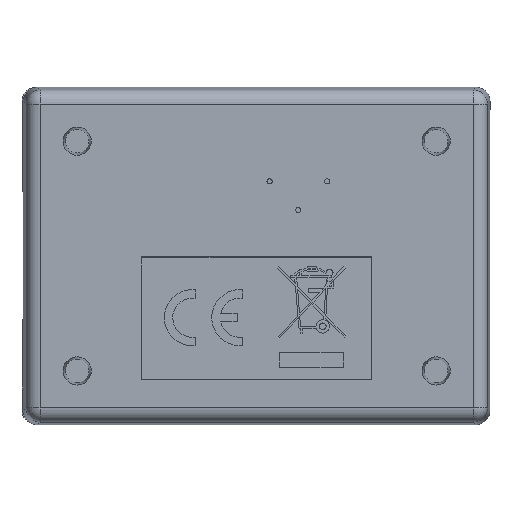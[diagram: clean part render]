
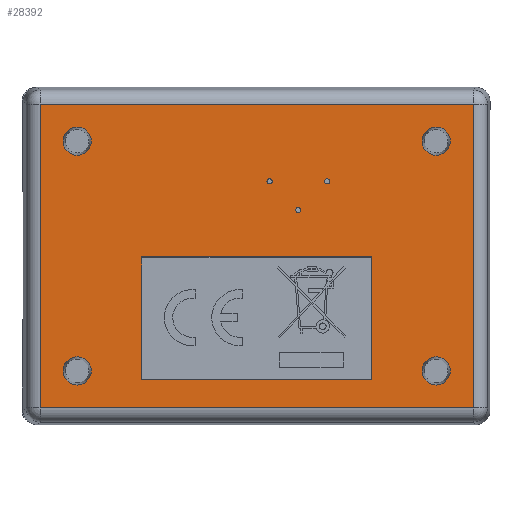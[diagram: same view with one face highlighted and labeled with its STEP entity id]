
A CAD part, front view. The second image highlights one B-rep face of the part: STEP entity #28392.
In plain terms, the highlighted planar face has unit normal (0, -1, 0) as drawn and (0, 0, -1) by its records, which use the part's own axes.
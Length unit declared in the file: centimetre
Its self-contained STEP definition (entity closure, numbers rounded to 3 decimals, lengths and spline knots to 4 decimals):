
#9549=VECTOR('',#31230,1.);
#9552=VECTOR('',#31234,1.);
#9555=VECTOR('',#31238,1.);
#9558=VECTOR('',#31242,1.);
#9719=VECTOR('',#31475,1.);
#9720=VECTOR('',#31476,1.);
#9721=VECTOR('',#31477,1.);
#9722=VECTOR('',#31478,1.);
#11767=LINE('',#36092,#9549);
#11770=LINE('',#36098,#9552);
#11773=LINE('',#36104,#9555);
#11776=LINE('',#36109,#9558);
#11937=LINE('',#37184,#9719);
#11938=LINE('',#37187,#9720);
#11939=LINE('',#37189,#9721);
#11940=LINE('',#37191,#9722);
#13961=PLANE('',#29525);
#14715=VERTEX_POINT('',#36091);
#14716=VERTEX_POINT('',#36093);
#14718=VERTEX_POINT('',#36099);
#14720=VERTEX_POINT('',#36105);
#14841=VERTEX_POINT('',#37177);
#14842=VERTEX_POINT('',#37179);
#14843=VERTEX_POINT('',#37181);
#14844=VERTEX_POINT('',#37183);
#14845=VERTEX_POINT('',#37185);
#14846=VERTEX_POINT('',#37186);
#14847=VERTEX_POINT('',#37188);
#14848=VERTEX_POINT('',#37190);
#16568=CIRCLE('',#29526,0.1249);
#16569=CIRCLE('',#29527,0.1249);
#16570=CIRCLE('',#29528,0.1249);
#16571=CIRCLE('',#29529,0.1249);
#17073=EDGE_CURVE('',#14716,#14715,#11767,.F.);
#17076=EDGE_CURVE('',#14718,#14716,#11770,.F.);
#17079=EDGE_CURVE('',#14720,#14718,#11773,.F.);
#17082=EDGE_CURVE('',#14715,#14720,#11776,.F.);
#17263=EDGE_CURVE('',#14841,#14841,#16568,.F.);
#17264=EDGE_CURVE('',#14842,#14842,#16569,.F.);
#17265=EDGE_CURVE('',#14843,#14843,#16570,.F.);
#17266=EDGE_CURVE('',#14844,#14844,#16571,.F.);
#17267=EDGE_CURVE('',#14845,#14846,#11937,.T.);
#17268=EDGE_CURVE('',#14847,#14845,#11938,.T.);
#17269=EDGE_CURVE('',#14848,#14847,#11939,.T.);
#17270=EDGE_CURVE('',#14846,#14848,#11940,.T.);
#20536=ORIENTED_EDGE('',*,*,#17263,.T.);
#20537=ORIENTED_EDGE('',*,*,#17264,.T.);
#20538=ORIENTED_EDGE('',*,*,#17265,.T.);
#20539=ORIENTED_EDGE('',*,*,#17266,.T.);
#20540=ORIENTED_EDGE('',*,*,#17267,.F.);
#20541=ORIENTED_EDGE('',*,*,#17268,.F.);
#20542=ORIENTED_EDGE('',*,*,#17269,.F.);
#20543=ORIENTED_EDGE('',*,*,#17270,.F.);
#20544=ORIENTED_EDGE('',*,*,#17073,.T.);
#20545=ORIENTED_EDGE('',*,*,#17082,.T.);
#20546=ORIENTED_EDGE('',*,*,#17079,.T.);
#20547=ORIENTED_EDGE('',*,*,#17076,.T.);
#25916=EDGE_LOOP('',(#20536));
#25917=EDGE_LOOP('',(#20537));
#25918=EDGE_LOOP('',(#20538));
#25919=EDGE_LOOP('',(#20539));
#25920=EDGE_LOOP('',(#20540,#20541,#20542,#20543));
#25921=EDGE_LOOP('',(#20544,#20545,#20546,#20547));
#27161=FACE_BOUND('',#25916,.T.);
#27162=FACE_BOUND('',#25917,.T.);
#27163=FACE_BOUND('',#25918,.T.);
#27164=FACE_BOUND('',#25919,.T.);
#27165=FACE_BOUND('',#25920,.T.);
#27166=FACE_BOUND('',#25921,.T.);
#28392=ADVANCED_FACE('',(#27161,#27162,#27163,#27164,#27165,#27166),#13961,
 .F.);
#29525=AXIS2_PLACEMENT_3D('',#37175,#31466,$);
#29526=AXIS2_PLACEMENT_3D('',#37176,#31467,#31468);
#29527=AXIS2_PLACEMENT_3D('',#37178,#31469,#31470);
#29528=AXIS2_PLACEMENT_3D('',#37180,#31471,#31472);
#29529=AXIS2_PLACEMENT_3D('',#37182,#31473,#31474);
#31230=DIRECTION('',(-1.,0.,0.));
#31234=DIRECTION('',(0.,1.,0.));
#31238=DIRECTION('',(1.,0.,0.));
#31242=DIRECTION('',(0.,-1.,0.));
#31466=DIRECTION('',(0.,0.,1.));
#31467=DIRECTION('',(0.,0.,-1.));
#31468=DIRECTION('',(-0.125,0.,0.));
#31469=DIRECTION('',(0.,0.,-1.));
#31470=DIRECTION('',(-0.125,0.,0.));
#31471=DIRECTION('',(0.,0.,-1.));
#31472=DIRECTION('',(-0.125,0.,0.));
#31473=DIRECTION('',(0.,0.,-1.));
#31474=DIRECTION('',(-0.125,0.,0.));
#31475=DIRECTION('',(-1.,0.,0.));
#31476=DIRECTION('',(0.,1.,0.));
#31477=DIRECTION('',(1.,0.,0.));
#31478=DIRECTION('',(0.,-1.,0.));
#36091=CARTESIAN_POINT('',(1.091,-1.0176,-0.0032));
#36092=CARTESIAN_POINT('',(0.1374,-1.0176,-0.0032));
#36093=CARTESIAN_POINT('',(0.0083,-1.0176,-0.0032));
#36098=CARTESIAN_POINT('',(0.0083,0.,-0.0032));
#36099=CARTESIAN_POINT('',(0.0083,1.0176,-0.0032));
#36104=CARTESIAN_POINT('',(0.1374,1.0176,-0.0032));
#36105=CARTESIAN_POINT('',(1.091,1.0176,-0.0032));
#36109=CARTESIAN_POINT('',(1.091,0.,-0.0032));
#37175=CARTESIAN_POINT('',(0.,0.,-0.0032));
#37176=CARTESIAN_POINT('',(1.016,1.5875,-0.0032));
#37177=CARTESIAN_POINT('',(1.1409,1.5875,-0.0032));
#37178=CARTESIAN_POINT('',(1.016,-1.5875,-0.0032));
#37179=CARTESIAN_POINT('',(1.1409,-1.5875,-0.0032));
#37180=CARTESIAN_POINT('',(-1.016,-1.5875,-0.0032));
#37181=CARTESIAN_POINT('',(-0.8911,-1.5875,-0.0032));
#37182=CARTESIAN_POINT('',(-1.016,1.5875,-0.0032));
#37183=CARTESIAN_POINT('',(-0.8911,1.5875,-0.0032));
#37184=CARTESIAN_POINT('',(0.,1.9149,-0.0032));
#37185=CARTESIAN_POINT('',(1.3434,1.9149,-0.0032));
#37186=CARTESIAN_POINT('',(-1.3434,1.9149,-0.0032));
#37187=CARTESIAN_POINT('',(1.3434,0.,-0.0032));
#37188=CARTESIAN_POINT('',(1.3434,-1.9149,-0.0032));
#37189=CARTESIAN_POINT('',(0.,-1.9149,-0.0032));
#37190=CARTESIAN_POINT('',(-1.3434,-1.9149,-0.0032));
#37191=CARTESIAN_POINT('',(-1.3434,0.,-0.0032));
